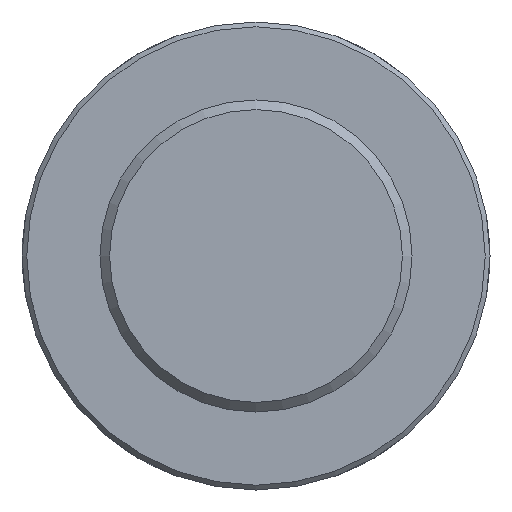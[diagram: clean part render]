
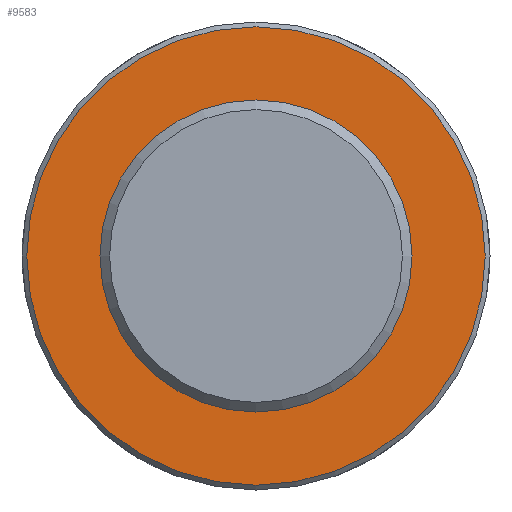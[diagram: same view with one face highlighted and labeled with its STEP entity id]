
A CAD part, front view. The second image highlights one B-rep face of the part: STEP entity #9583.
In plain terms, the highlighted planar face has unit normal (0, -1, 0) as drawn and (0, 1, 0) by its records, which use the part's own axes.
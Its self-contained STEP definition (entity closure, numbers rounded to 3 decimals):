
#73=CIRCLE('',#9928,95.5);
#388=PLANE('',#9931);
#904=FACE_OUTER_BOUND('',#1497,.T.);
#1497=EDGE_LOOP('',(#8771));
#4617=VERTEX_POINT('',#17663);
#6005=EDGE_CURVE('',#4617,#4617,#73,.T.);
#8771=ORIENTED_EDGE('',*,*,#6005,.F.);
#9583=ADVANCED_FACE('',(#904),#388,.T.);
#9928=AXIS2_PLACEMENT_3D('',#17664,#11296,#11297);
#9931=AXIS2_PLACEMENT_3D('',#17902,#11302,#11303);
#11296=DIRECTION('center_axis',(0.,-1.,0.));
#11297=DIRECTION('ref_axis',(1.,0.,0.));
#11302=DIRECTION('center_axis',(0.,1.,0.));
#11303=DIRECTION('ref_axis',(0.,0.,1.));
#17663=CARTESIAN_POINT('',(-95.5,85.,0.));
#17664=CARTESIAN_POINT('Origin',(0.,85.,0.));
#17902=CARTESIAN_POINT('Origin',(0.,85.,0.));
